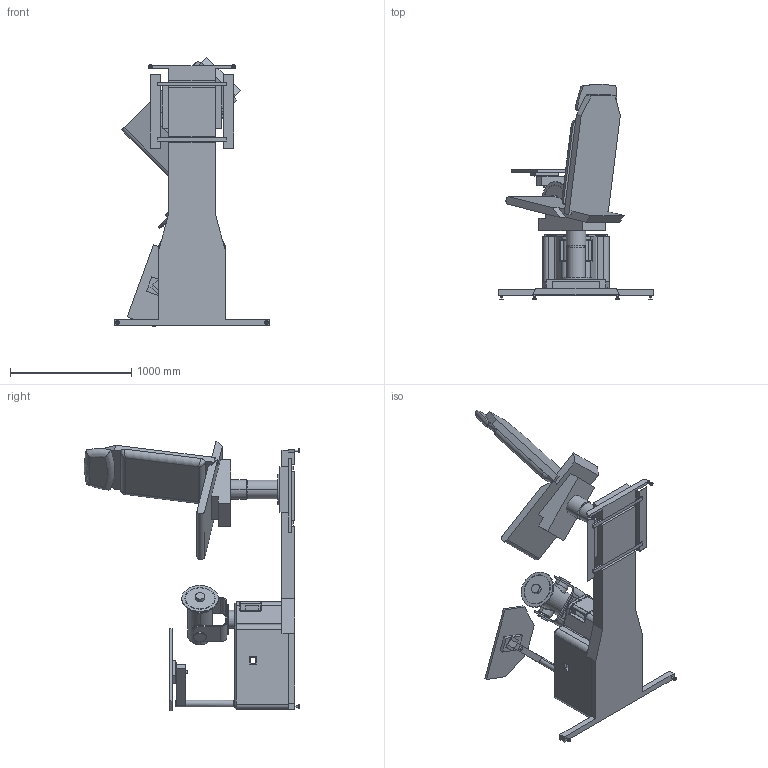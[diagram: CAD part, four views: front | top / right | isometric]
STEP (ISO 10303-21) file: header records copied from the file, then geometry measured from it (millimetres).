
FILE_DESCRIPTION (( 'STEP AP203' ), '1' );
FILE_NAME ('CSMi HUMAC NORM.STEP', '2021-09-03T13:30:03', ( '' ), ( '' ), 'SwSTEP 2.0', 'SolidWorks 2019', '' );
FILE_SCHEMA (( 'CONFIG_CONTROL_DESIGN' ));
Length unit declared in the file: inch
Products named in the file (1): CSMi HUMAC NORM
Bounding box: 1282.7 x 1777.27 x 2229.02 mm (x, y, z)
Surface area: 12139539.9 mm2 (no closed solid volume)
Topology: 0 solids, 14 shells, 616 faces, 1537 edges, 958 vertices
Faces by surface type: plane 328, cylinder 200, torus 54, bspline 18, cone 16
Entity records: 20228 total; most frequent: CARTESIAN_POINT 5445, DIRECTION 3089, ORIENTED_EDGE 3052, EDGE_CURVE 1533, AXIS2_PLACEMENT_3D 1055, LINE 979, VECTOR 979, VERTEX_POINT 958
